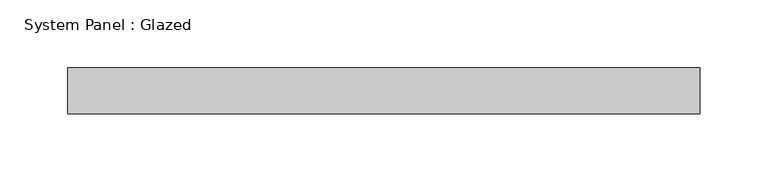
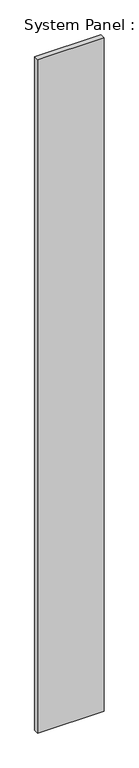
"""IFC4 building model written with IfcOpenShell, lengths in millimetres: plate geometry, System Panel : Glazed."""

from ifc_helpers import new_model, si_unit, origin, origin_with_axes, place, context, project, spatial, polyline, outline, extrude, source, transform, mapped, element, save


def system_panel_glazed_74f318cf(model_context):
    return source(origin(), model_context, "Body", "SweptSolid", [
        extrude(outline(polyline([(233.6111111, -17.0), (-233.6111111, -17.0), (-233.6111111, 17.0), (233.6111111, 17.0), (233.6111111, -17.0)])), origin_with_axes(), (0.0, 0.0, 1.0), 5000.0),
    ])


if __name__ == "__main__":
    model = new_model("IFC4")
    model_context = context("Model", 3, world=origin())
    ifc_project = project(units=[si_unit("LENGTHUNIT", "METRE", prefix="MILLI")], contexts=[model_context])
    site = spatial("IfcSite", under=ifc_project)
    building = spatial("IfcBuilding", under=site)
    placement = place(None, origin())
    system_panel_glazed_shape = system_panel_glazed_74f318cf(model_context)
    element("IfcPlate", 1, ObjectType="System Panel : Glazed", at=placement, inside=building, context=model_context, shape_type="MappedRepresentation", body=[
        mapped(system_panel_glazed_shape, transform((0.0, 0.0, 0.0), x_axis=(1.0, 0.0, 0.0), y_axis=(0.0, 1.0, 0.0), z_axis=(0.0, 0.0, 1.0))),
    ])
    save(model, "model.ifc")
